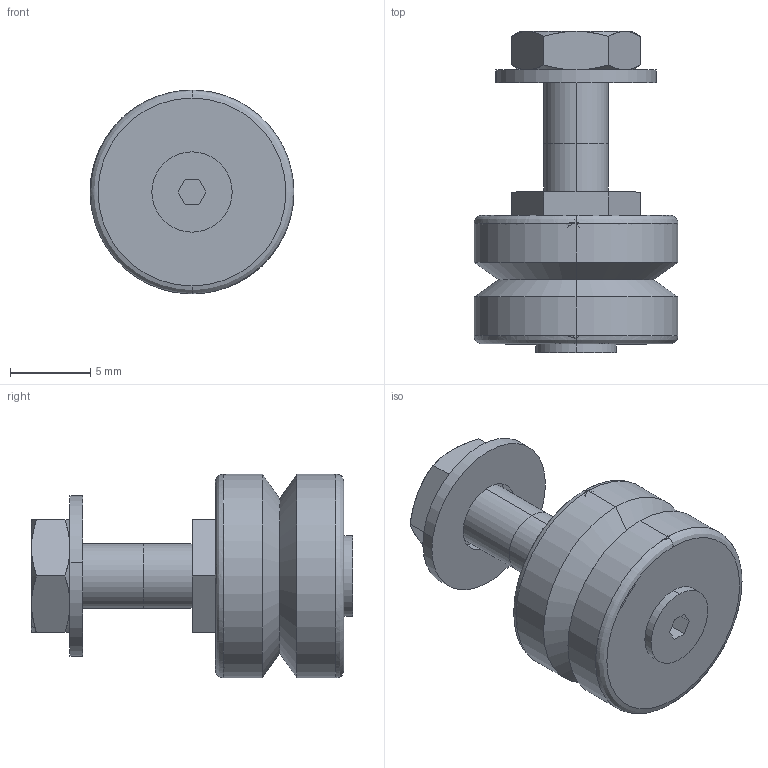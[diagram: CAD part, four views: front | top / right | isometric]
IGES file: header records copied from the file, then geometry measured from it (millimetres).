
Start section: 3D InterOp IGES (Version 21 0 1), Spatial Corp. Copyright (c) 1999-2007.
Global section: file name: NAL-13-C.igs; native system: Spatial Corp.; preprocessor: 3D InterOp GENERIC/IGES 3.0; author: Noname; organization: Noname; date: 20220311.163323; units: millimetre
Bounding box: 12.7 x 20 x 12.7 mm (x, y, z)
Surface area: 1424.1 mm2 (no closed solid volume)
Topology: 0 solids, 0 shells, 69 faces, 308 edges, 300 vertices
Faces by surface type: revolution 42, extrusion 27
